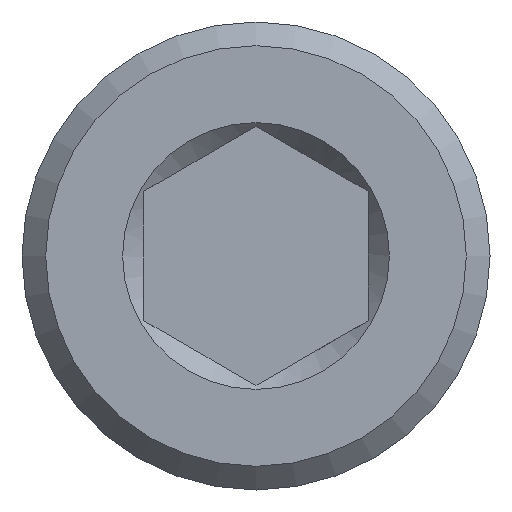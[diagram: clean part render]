
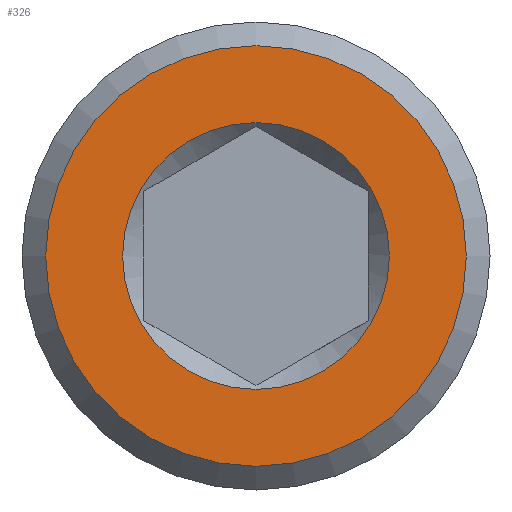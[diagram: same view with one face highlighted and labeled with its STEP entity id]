
A CAD part, front view. The second image highlights one B-rep face of the part: STEP entity #326.
In plain terms, the highlighted planar face has unit normal (0, -1, 0).
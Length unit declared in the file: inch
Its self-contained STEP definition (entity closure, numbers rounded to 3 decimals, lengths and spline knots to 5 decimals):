
#23=FACE_BOUND('',#107,.T.);
#85=FACE_OUTER_BOUND('',#106,.T.);
#106=EDGE_LOOP('',(#280));
#107=EDGE_LOOP('',(#281));
#126=CIRCLE('',#376,0.371);
#127=CIRCLE('',#378,0.585);
#157=VERTEX_POINT('',#577);
#158=VERTEX_POINT('',#581);
#199=EDGE_CURVE('',#157,#157,#126,.T.);
#200=EDGE_CURVE('',#158,#158,#127,.T.);
#280=ORIENTED_EDGE('',*,*,#200,.F.);
#281=ORIENTED_EDGE('',*,*,#199,.F.);
#309=PLANE('',#377);
#326=ADVANCED_FACE('',(#85,#23),#309,.T.);
#376=AXIS2_PLACEMENT_3D('',#579,#465,#466);
#377=AXIS2_PLACEMENT_3D('',#580,#467,#468);
#378=AXIS2_PLACEMENT_3D('',#582,#469,#470);
#465=DIRECTION('center_axis',(0.,-1.,0.));
#466=DIRECTION('ref_axis',(0.,0.,1.));
#467=DIRECTION('center_axis',(0.,-1.,0.));
#468=DIRECTION('ref_axis',(0.,0.,-1.));
#469=DIRECTION('center_axis',(0.,1.,0.));
#470=DIRECTION('ref_axis',(0.,0.,1.));
#577=CARTESIAN_POINT('',(0.,0.,-0.371));
#579=CARTESIAN_POINT('Origin',(0.,0.,0.));
#580=CARTESIAN_POINT('Origin',(0.,0.,-0.311));
#581=CARTESIAN_POINT('',(0.,0.,-0.585));
#582=CARTESIAN_POINT('Origin',(0.,0.,0.));
